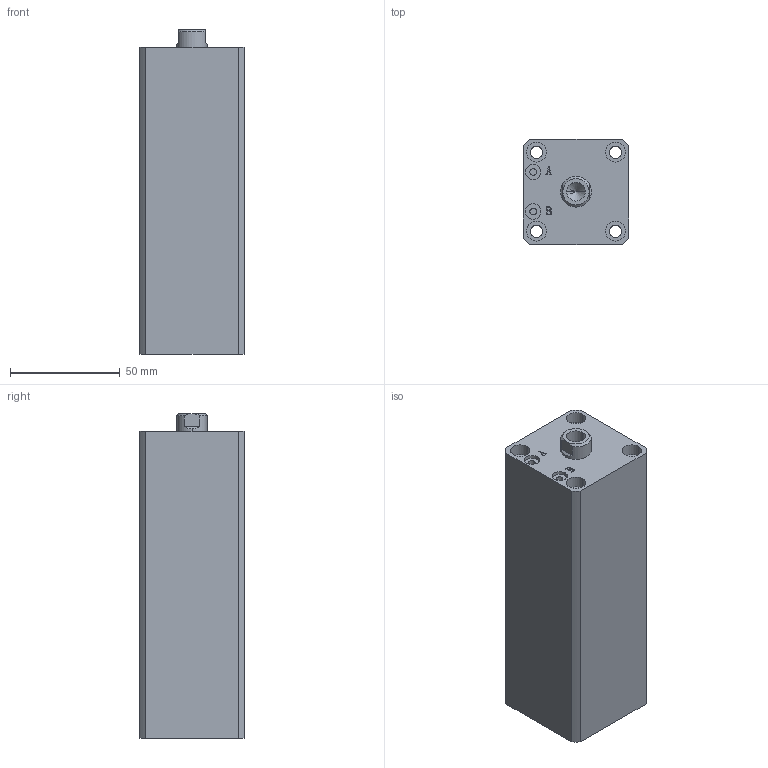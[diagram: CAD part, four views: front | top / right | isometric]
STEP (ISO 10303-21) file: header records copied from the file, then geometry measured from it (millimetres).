
FILE_DESCRIPTION (( 'STEP AP203' ), '1' );
FILE_NAME ('HTB-SDMA25-95N.STEP', '2019-10-07T11:16:52', ( '微软用户' ), ( '微软中国' ), 'SwSTEP 2.0', 'SolidWorks 2012', '' );
FILE_SCHEMA (( 'CONFIG_CONTROL_DESIGN' ));
Length unit declared in the file: millimetre
Products named in the file (3): HTB-SDMA25-95N; HTB-SDMA25-95N活塞杆; HTB-SDMA25-95掛极
Assembly tree (2 placements, depth 2):
  HTB-SDMA25-95N
    HTB-SDMA25-95掛极
    HTB-SDMA25-95N活塞杆
Bounding box: 48 x 48 x 148 mm (x, y, z)
Volume: 272707.6 mm3; surface area: 59329.7 mm2
Topology: 2 solids, 2 shells, 137 faces, 329 edges, 215 vertices
Faces by surface type: plane 65, cylinder 46, bspline 16, torus 6, cone 4
Entity records: 5072 total; most frequent: CARTESIAN_POINT 1592, ORIENTED_EDGE 654, DIRECTION 645, EDGE_CURVE 327, AXIS2_PLACEMENT_3D 232, VERTEX_POINT 215, LINE 181, VECTOR 181
